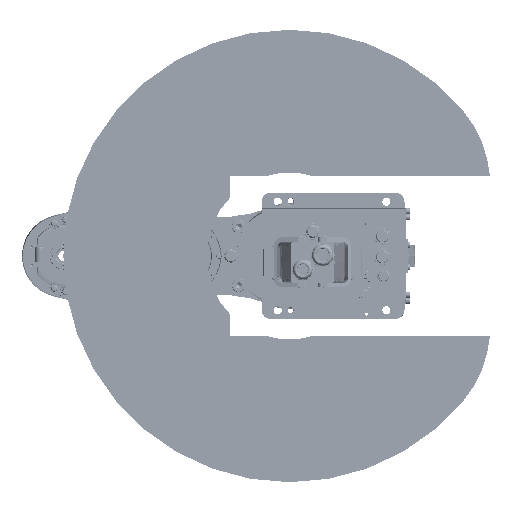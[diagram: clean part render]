
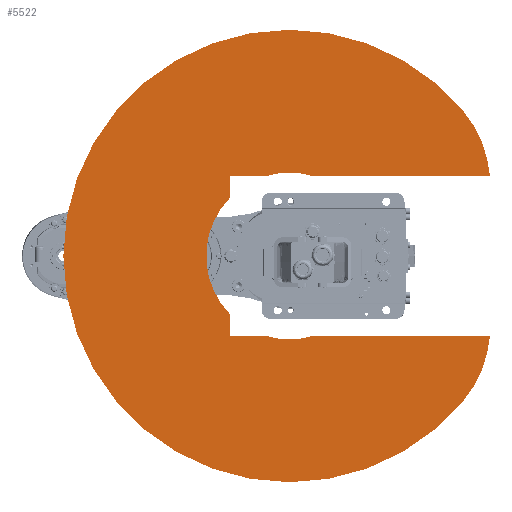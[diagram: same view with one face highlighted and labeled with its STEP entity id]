
A CAD part, front view. The second image highlights one B-rep face of the part: STEP entity #5522.
In plain terms, the highlighted planar face has unit normal (0, -1, 0).
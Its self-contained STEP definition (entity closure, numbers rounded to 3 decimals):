
#5522 = ADVANCED_FACE( '', ( #14900 ), #14901, .F. );
#14900 = FACE_OUTER_BOUND( '', #29409, .T. );
#14901 = PLANE( '', #29410 );
#29409 = EDGE_LOOP( '', ( #47609, #47610, #47611, #47612, #47613, #47614, #47615, #47616, #47617, #47618, #47619, #47620 ) );
#29410 = AXIS2_PLACEMENT_3D( '', #47621, #47622, #47623 );
#47609 = ORIENTED_EDGE( '', *, *, #81309, .T. );
#47610 = ORIENTED_EDGE( '', *, *, #81310, .F. );
#47611 = ORIENTED_EDGE( '', *, *, #81311, .F. );
#47612 = ORIENTED_EDGE( '', *, *, #81312, .F. );
#47613 = ORIENTED_EDGE( '', *, *, #80379, .T. );
#47614 = ORIENTED_EDGE( '', *, *, #81313, .T. );
#47615 = ORIENTED_EDGE( '', *, *, #81314, .T. );
#47616 = ORIENTED_EDGE( '', *, *, #81315, .T. );
#47617 = ORIENTED_EDGE( '', *, *, #81316, .T. );
#47618 = ORIENTED_EDGE( '', *, *, #79281, .T. );
#47619 = ORIENTED_EDGE( '', *, *, #81317, .T. );
#47620 = ORIENTED_EDGE( '', *, *, #81318, .T. );
#47621 = CARTESIAN_POINT( '', ( 38.567, 0., 45.963 ) );
#47622 = DIRECTION( '', ( 0., 1., 0. ) );
#47623 = DIRECTION( '', ( 0., 0., 1. ) );
#79281 = EDGE_CURVE( '', #93405, #93403, #93406, .T. );
#80379 = EDGE_CURVE( '', #95324, #95329, #95331, .T. );
#81309 = EDGE_CURVE( '', #96955, #96956, #96957, .T. );
#81310 = EDGE_CURVE( '', #96958, #96956, #96959, .T. );
#81311 = EDGE_CURVE( '', #96960, #96958, #96961, .T. );
#81312 = EDGE_CURVE( '', #95324, #96960, #96962, .T. );
#81313 = EDGE_CURVE( '', #95329, #96963, #96964, .T. );
#81314 = EDGE_CURVE( '', #96963, #96965, #96966, .T. );
#81315 = EDGE_CURVE( '', #96965, #96967, #96968, .T. );
#81316 = EDGE_CURVE( '', #96967, #93405, #96969, .T. );
#81317 = EDGE_CURVE( '', #93403, #96970, #96971, .T. );
#81318 = EDGE_CURVE( '', #96970, #96955, #96972, .T. );
#93403 = VERTEX_POINT( '', #114430 );
#93405 = VERTEX_POINT( '', #114433 );
#93406 = LINE( '', #114434, #114435 );
#95324 = VERTEX_POINT( '', #117753 );
#95329 = VERTEX_POINT( '', #117760 );
#95331 = LINE( '', #117763, #117764 );
#96955 = VERTEX_POINT( '', #120248 );
#96956 = VERTEX_POINT( '', #120249 );
#96957 = LINE( '', #120250, #120251 );
#96958 = VERTEX_POINT( '', #120252 );
#96959 = CIRCLE( '', #120253, 130. );
#96960 = VERTEX_POINT( '', #120254 );
#96961 = CIRCLE( '', #120255, 250. );
#96962 = CIRCLE( '', #120256, 130. );
#96963 = VERTEX_POINT( '', #120257 );
#96964 = CIRCLE( '', #120258, 92.1 );
#96965 = VERTEX_POINT( '', #120259 );
#96966 = LINE( '', #120260, #120261 );
#96967 = VERTEX_POINT( '', #120262 );
#96968 = LINE( '', #120263, #120264 );
#96969 = CIRCLE( '', #120265, 92.1 );
#96970 = VERTEX_POINT( '', #120266 );
#96971 = LINE( '', #120267, #120268 );
#96972 = CIRCLE( '', #120269, 92.1 );
#114430 = CARTESIAN_POINT( '', ( -88., 0., -66. ) );
#114433 = CARTESIAN_POINT( '', ( -64.237, 0., -66. ) );
#114434 = CARTESIAN_POINT( '', ( 88., 0., -66. ) );
#114435 = VECTOR( '', #147047, 1000. );
#117753 = CARTESIAN_POINT( '', ( 88., 0., 221.47 ) );
#117760 = CARTESIAN_POINT( '', ( 88., 0., 27.174 ) );
#117763 = CARTESIAN_POINT( '', ( 88., 0., 334. ) );
#117764 = VECTOR( '', #148300, 1000. );
#120248 = CARTESIAN_POINT( '', ( -88., 0., 27.174 ) );
#120249 = CARTESIAN_POINT( '', ( -88., 0., 221.47 ) );
#120250 = CARTESIAN_POINT( '', ( -88., 0., -66. ) );
#120251 = VECTOR( '', #149525, 1000. );
#120252 = CARTESIAN_POINT( '', ( -160.697, 0., 191.511 ) );
#120253 = AXIS2_PLACEMENT_3D( '', #149526, #149527, #149528 );
#120254 = CARTESIAN_POINT( '', ( 160.697, 0., 191.511 ) );
#120255 = AXIS2_PLACEMENT_3D( '', #149529, #149530, #149531 );
#120256 = AXIS2_PLACEMENT_3D( '', #149532, #149533, #149534 );
#120257 = CARTESIAN_POINT( '', ( 88., 0., -27.174 ) );
#120258 = AXIS2_PLACEMENT_3D( '', #149535, #149536, #149537 );
#120259 = CARTESIAN_POINT( '', ( 88., 0., -66. ) );
#120260 = CARTESIAN_POINT( '', ( 88., 0., 334. ) );
#120261 = VECTOR( '', #149538, 1000. );
#120262 = CARTESIAN_POINT( '', ( 64.237, 0., -66. ) );
#120263 = CARTESIAN_POINT( '', ( 88., 0., -66. ) );
#120264 = VECTOR( '', #149539, 1000. );
#120265 = AXIS2_PLACEMENT_3D( '', #149540, #149541, #149542 );
#120266 = CARTESIAN_POINT( '', ( -88., 0., -27.174 ) );
#120267 = CARTESIAN_POINT( '', ( -88., 0., -66. ) );
#120268 = VECTOR( '', #149543, 1000. );
#120269 = AXIS2_PLACEMENT_3D( '', #149544, #149545, #149546 );
#147047 = DIRECTION( '', ( -1., 0., 0. ) );
#148300 = DIRECTION( '', ( 0., 0., -1. ) );
#149525 = DIRECTION( '', ( 0., 0., 1. ) );
#149526 = CARTESIAN_POINT( '', ( -77.135, 0., 91.925 ) );
#149527 = DIRECTION( '', ( 0., 1., 0. ) );
#149528 = DIRECTION( '', ( 1., 0., 0. ) );
#149529 = CARTESIAN_POINT( '', ( 0., 0., 0. ) );
#149530 = DIRECTION( '', ( 0., 1., 0. ) );
#149531 = DIRECTION( '', ( 1., 0., 0. ) );
#149532 = CARTESIAN_POINT( '', ( 77.135, 0., 91.925 ) );
#149533 = DIRECTION( '', ( 0., 1., 0. ) );
#149534 = DIRECTION( '', ( 1., 0., 0. ) );
#149535 = CARTESIAN_POINT( '', ( 0., 0., 0. ) );
#149536 = DIRECTION( '', ( 0., 1., 0. ) );
#149537 = DIRECTION( '', ( 1., 0., 0. ) );
#149538 = DIRECTION( '', ( 0., 0., -1. ) );
#149539 = DIRECTION( '', ( -1., 0., 0. ) );
#149540 = CARTESIAN_POINT( '', ( 0., 0., 0. ) );
#149541 = DIRECTION( '', ( 0., 1., 0. ) );
#149542 = DIRECTION( '', ( 1., 0., 0. ) );
#149543 = DIRECTION( '', ( 0., 0., 1. ) );
#149544 = CARTESIAN_POINT( '', ( 0., 0., 0. ) );
#149545 = DIRECTION( '', ( 0., 1., 0. ) );
#149546 = DIRECTION( '', ( 1., 0., 0. ) );
